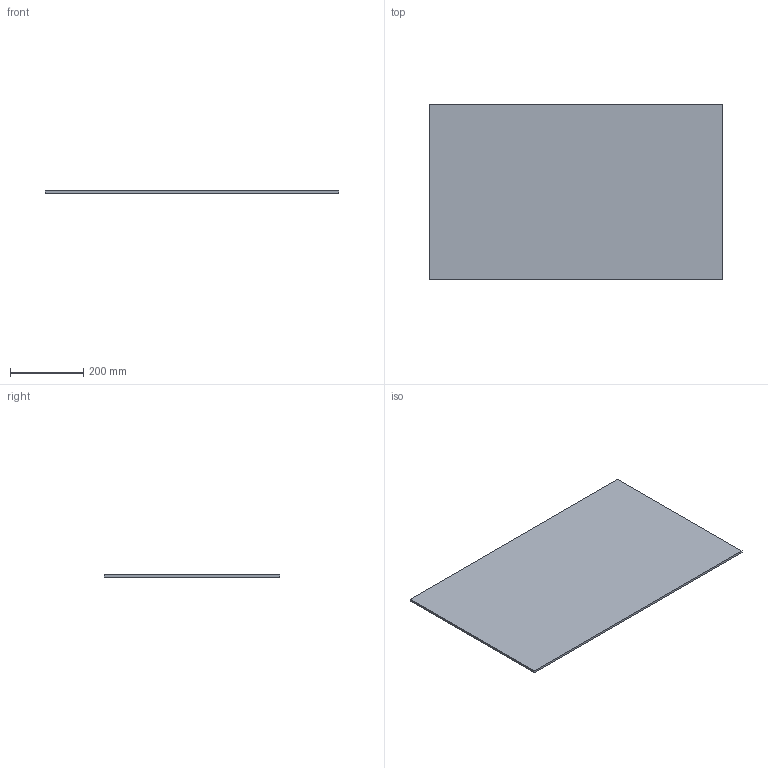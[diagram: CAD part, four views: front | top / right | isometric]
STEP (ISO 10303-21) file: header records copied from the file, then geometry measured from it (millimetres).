
FILE_DESCRIPTION (( 'STEP AP214' ), '1' );
FILE_NAME ('Lochblech_NL500_KAB900_19.step', '2010-10-11T13:38:38', ( 'grass' ), ( '' ), 'SwSTEP 2.0', 'SolidWorks 2010', '' );
FILE_SCHEMA (( 'AUTOMOTIVE_DESIGN' ));
Length unit declared in the file: millimetre
Products named in the file (1): Lochblech_NL500_KAB900_19
Bounding box: 802 x 479 x 6 mm (x, y, z)
Volume: 2304948 mm3; surface area: 783688 mm2
Topology: 1 solids, 1 shells, 6 faces, 12 edges, 8 vertices
Faces by surface type: plane 6
Entity records: 190 total; most frequent: CARTESIAN_POINT 27, DIRECTION 26, ORIENTED_EDGE 24, EDGE_CURVE 12, VECTOR 12, LINE 12, VERTEX_POINT 8, AXIS2_PLACEMENT_3D 7
